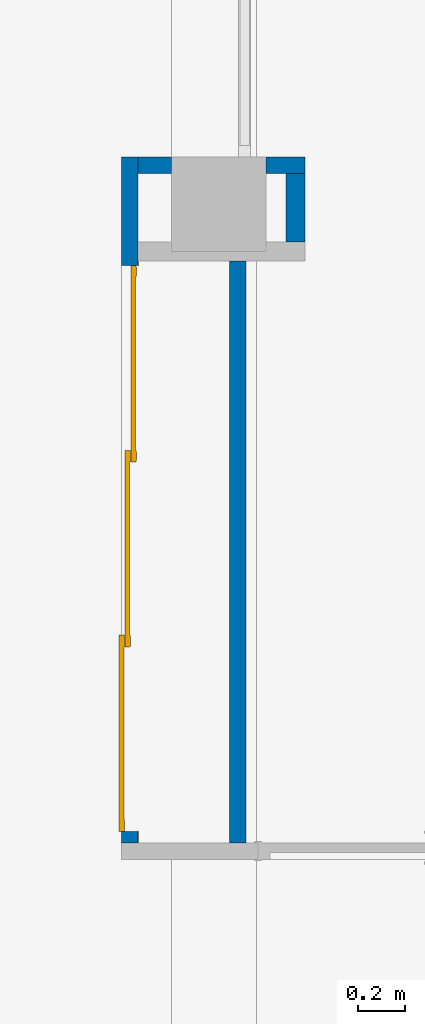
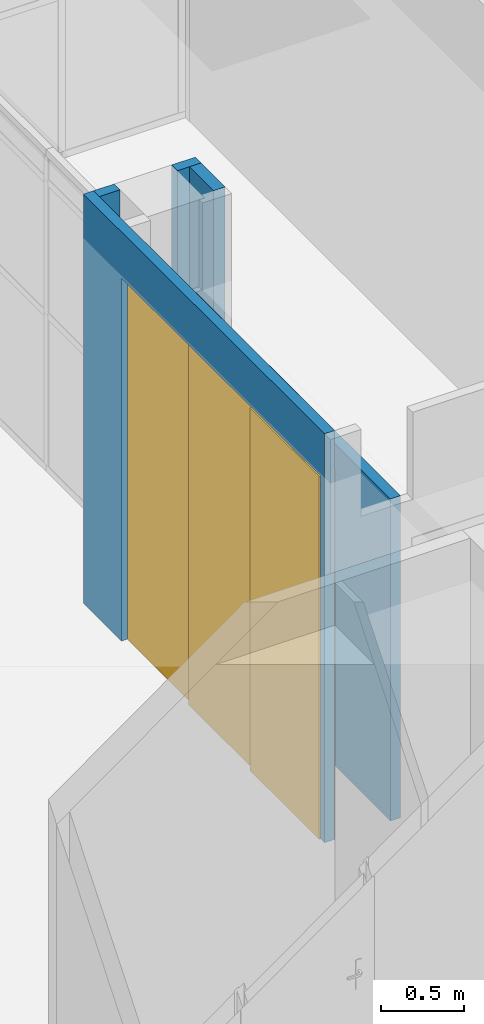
# One storey, part 41 of 97: 4 walls, 1 door, 1 opening.
"""IFC4 building model written with IfcOpenShell, lengths in metres."""

import ifcopenshell
import ifcopenshell.guid

model = None  # the IFC model being written
_history = None  # IfcOwnerHistory: only IFC2X3 demands one
_inside = {}  # id of a spatial element -> (the spatial element, [elements in it])
_under = {}  # id of a project, library or spatial element -> (it, [spatial elements below it])
_declared = {}  # id of a project -> (the project, [libraries it declares])
_typed = {}  # id of a type object -> (the type object, [elements of that type])
_made_of = {}  # id of a material, layer set ... -> (it, [elements and type objects made of it])


def new_model(schema):
    """Start an empty IFC model of exactly this schema.

    Asked for "IFC4X3", IfcOpenShell would pick the latest addendum, in which some entities
    have other attributes; the version numbers below select the first issue.
    IFC2X3 requires an IfcOwnerHistory on every rooted entity: one is made here for all.
    """
    global model, _history
    if schema == "IFC4X3":
        model = ifcopenshell.file(schema_version=(4, 3, 0, 0))
    else:
        model = ifcopenshell.file(schema=schema)
    _inside.clear()
    _under.clear()
    _declared.clear()
    _typed.clear()
    _made_of.clear()
    _history = None
    if model.schema == "IFC2X3":
        org = make("IfcOrganization", Name="unknown")
        user = make(
            "IfcPersonAndOrganization",
            ThePerson=make("IfcPerson", FamilyName="unknown"),
            TheOrganization=org,
        )
        app = make(
            "IfcApplication",
            ApplicationDeveloper=org,
            Version="unknown",
            ApplicationFullName="unknown",
            ApplicationIdentifier="unknown",
        )
        _history = make(
            "IfcOwnerHistory",
            OwningUser=user,
            OwningApplication=app,
            ChangeAction="ADDED",
            CreationDate=0,
        )
    return model


def make(cls, **values):
    """One entity of the class cls with the attributes given. An attribute that is None is left unset."""
    return model.create_entity(
        cls, **{name: value for name, value in values.items() if value is not None}
    )


def entity(cls, *values):
    """Any entity or typed value of the class cls, its attributes in the order of the schema. None: left unset."""
    e = model.create_entity(cls)
    for i, value in enumerate(values):
        if value is not None:
            e[i] = value
    return e


def rooted(cls, **values):
    """An entity with a GlobalId (a new one), such as an element, a storey or a relation."""
    return make(cls, GlobalId=ifcopenshell.guid.new(), OwnerHistory=_history, **values)


def si_unit(unit_type, name, prefix=None):
    """IfcSIUnit, for example si_unit("LENGTHUNIT", "METRE", prefix="MILLI")."""
    return make("IfcSIUnit", UnitType=unit_type, Prefix=prefix, Name=name)


def converted_unit(unit_type, name, factor, base, dimensions=None, offset=None):
    """IfcConversionBasedUnit, such as the inch: factor (a typed value) times the base unit."""
    return make(
        "IfcConversionBasedUnit"
        if offset is None
        else "IfcConversionBasedUnitWithOffset",
        ConversionOffset=offset,
        Dimensions=None
        if dimensions is None
        else entity("IfcDimensionalExponents", *dimensions),
        UnitType=unit_type,
        Name=name,
        ConversionFactor=make(
            "IfcMeasureWithUnit", ValueComponent=factor, UnitComponent=base
        ),
    )


def derived_unit(unit_type, elements):
    """IfcDerivedUnit: a product of units, each with its exponent."""
    return make(
        "IfcDerivedUnit",
        Elements=[
            make("IfcDerivedUnitElement", Unit=unit, Exponent=power)
            for unit, power in elements
        ],
        UnitType=unit_type,
    )


def assignment(units):
    """IfcUnitAssignment: the units of a project."""
    return None if units is None else make("IfcUnitAssignment", Units=units)


def point(xyz):
    """IfcCartesianPoint."""
    return None if xyz is None else make("IfcCartesianPoint", Coordinates=xyz)


def direction(xyz):
    """IfcDirection."""
    return None if xyz is None else make("IfcDirection", DirectionRatios=xyz)


def frame(location, z_axis=None, x_axis=None):
    """IfcAxis2Placement3D, a coordinate frame: its origin and axes. An axis left out is left unset."""
    return make(
        "IfcAxis2Placement3D",
        Location=point(location),
        Axis=direction(z_axis),
        RefDirection=direction(x_axis),
    )


def origin():
    """The frame at (0, 0, 0) with its axes left unset."""
    return frame((0.0, 0.0, 0.0))


def place(relative_to, where):
    """IfcLocalPlacement: puts the frame where relative to a parent placement (None: the world)."""
    return make(
        "IfcLocalPlacement", PlacementRelTo=relative_to, RelativePlacement=where
    )


def context(
    kind, dimensions, precision=None, world=None, true_north=None, identifier=None
):
    """IfcGeometricRepresentationContext, for example the 3D "Model" context."""
    return make(
        "IfcGeometricRepresentationContext",
        ContextIdentifier=identifier,
        ContextType=kind,
        CoordinateSpaceDimension=dimensions,
        Precision=precision,
        WorldCoordinateSystem=world,
        TrueNorth=true_north,
    )


def subcontext(parent, identifier, kind, view, scale=None):
    """IfcGeometricRepresentationSubContext, for example "Body" below "Model"."""
    return make(
        "IfcGeometricRepresentationSubContext",
        ContextIdentifier=identifier,
        ContextType=kind,
        ParentContext=parent,
        TargetScale=scale,
        TargetView=view,
    )


def project(units=None, contexts=None):
    """IfcProject with its units and contexts."""
    return rooted(
        "IfcProject",
        Name="project",
        RepresentationContexts=contexts,
        UnitsInContext=assignment(units),
    )


def spatial(cls, under=None, at=None, **own):
    """A site, building, storey or space (cls), placed at a placement, below another one or the project."""
    s = rooted(cls, ObjectPlacement=at, **own)
    if under is not None:
        _under.setdefault(under.id(), (under, []))[1].append(s)
    return s


def point_list(points):
    """IfcCartesianPointList2D or 3D."""
    cls = (
        "IfcCartesianPointList2D" if len(points[0]) == 2 else "IfcCartesianPointList3D"
    )
    return make(cls, CoordList=points)


def indexed_curve(points, segments=None, self_intersect=None):
    """IfcIndexedPolyCurve: lines and arcs through numbered points (the first is 1)."""
    return make(
        "IfcIndexedPolyCurve",
        Points=point_list(points),
        Segments=segments,
        SelfIntersect=self_intersect,
    )


def outline(outer, holes=None, kind="AREA"):
    """IfcArbitraryClosedProfileDef: a profile drawn as a closed curve; with holes, ...WithVoids."""
    if holes is None:
        return make("IfcArbitraryClosedProfileDef", ProfileType=kind, OuterCurve=outer)
    return make(
        "IfcArbitraryProfileDefWithVoids",
        ProfileType=kind,
        OuterCurve=outer,
        InnerCurves=holes,
    )


def extrude(swept, where, along, depth):
    """IfcExtrudedAreaSolid: the profile swept, set in the frame where, extruded along a direction by depth."""
    return make(
        "IfcExtrudedAreaSolid",
        SweptArea=swept,
        Position=where,
        ExtrudedDirection=direction(along),
        Depth=depth,
    )


def polygons(points, faces, closed=None, point_numbers=None):
    """IfcPolygonalFaceSet: a face is its outer loop, then its inner loops; points numbered from 1."""
    made = []
    for loops in faces:
        if len(loops) == 1:
            made.append(make("IfcIndexedPolygonalFace", CoordIndex=loops[0]))
        else:
            made.append(
                make(
                    "IfcIndexedPolygonalFaceWithVoids",
                    CoordIndex=loops[0],
                    InnerCoordIndices=loops[1:],
                )
            )
    return make(
        "IfcPolygonalFaceSet",
        Coordinates=point_list(points),
        Closed=closed,
        Faces=made,
        PnIndex=point_numbers,
    )


def shape(context_of_items, identifier, shape_type, items):
    """IfcShapeRepresentation: the items that make up one representation, for example the "Body"."""
    return make(
        "IfcShapeRepresentation",
        ContextOfItems=context_of_items,
        RepresentationIdentifier=identifier,
        RepresentationType=shape_type,
        Items=items,
    )


def source(mapping_origin, context_of_items, identifier, shape_type, items):
    """IfcRepresentationMap: a shape defined once, which mapped items show again and again."""
    return make(
        "IfcRepresentationMap",
        MappingOrigin=mapping_origin,
        MappedRepresentation=shape(context_of_items, identifier, shape_type, items),
    )


def transform(
    local_origin,
    x_axis=None,
    y_axis=None,
    z_axis=None,
    scale=None,
    scale2=None,
    scale3=None,
    uniform=True,
):
    """IfcCartesianTransformationOperator3D, or its non-uniform kind. x_axis, y_axis, z_axis: its Axis1, 2, 3."""
    if uniform:
        return make(
            "IfcCartesianTransformationOperator3D",
            Axis1=direction(x_axis),
            Axis2=direction(y_axis),
            LocalOrigin=point(local_origin),
            Scale=scale,
            Axis3=direction(z_axis),
        )
    return make(
        "IfcCartesianTransformationOperator3DnonUniform",
        Axis1=direction(x_axis),
        Axis2=direction(y_axis),
        LocalOrigin=point(local_origin),
        Scale=scale,
        Axis3=direction(z_axis),
        Scale2=scale2,
        Scale3=scale3,
    )


def mapped(mapping_source, mapping_target):
    """IfcMappedItem: shows the shape of a source again, moved by a transform."""
    return make(
        "IfcMappedItem", MappingSource=mapping_source, MappingTarget=mapping_target
    )


def material(Name=None, Category=None):
    """IfcMaterial."""
    return make("IfcMaterial", Name=Name, Category=Category)


def material_list(materials):
    """IfcMaterialList."""
    return make("IfcMaterialList", Materials=materials)


def layer(
    of_material, thickness, ventilated=None, Name=None, Category=None, Priority=None
):
    """IfcMaterialLayer: one layer of a wall or slab, of a material (None: an air gap)."""
    return make(
        "IfcMaterialLayer",
        Material=of_material,
        LayerThickness=thickness,
        IsVentilated=ventilated,
        Name=Name,
        Category=Category,
        Priority=Priority,
    )


def layer_set(layers, Name=None):
    """IfcMaterialLayerSet."""
    return make("IfcMaterialLayerSet", MaterialLayers=layers, LayerSetName=Name)


def constituent(of_material, Name=None, Category=None, fraction=None):
    """IfcMaterialConstituent: one of the materials an element consists of."""
    return make(
        "IfcMaterialConstituent",
        Name=Name,
        Material=of_material,
        Fraction=fraction,
        Category=Category,
    )


def constituent_set(constituents=None, Name=None):
    """IfcMaterialConstituentSet."""
    return make(
        "IfcMaterialConstituentSet", Name=Name, MaterialConstituents=constituents
    )


def made_of(thing, what):
    """Note that an element or type object is made of a material, layer set ...; save() writes the relation."""
    if what is not None:
        _made_of.setdefault(what.id(), (what, []))[1].append(thing)
    return thing


def type_object(cls, material=None, **own):
    """A type object (cls), such as IfcWallType, which elements share."""
    return made_of(rooted(cls, **own), material)


def type_shapes(of_type, sources):
    """Give a type object the sources (RepresentationMaps) that its elements show as mapped items."""
    of_type.RepresentationMaps = sources


def element(
    cls,
    number,
    at=None,
    inside=None,
    cuts=None,
    type_object=None,
    material=None,
    context=None,
    identifier="Body",
    shape_type=None,
    held_by="IfcProductDefinitionShape",
    body=None,
    shapes=None,
    **own,
):
    """One element of the class cls, such as IfcWall. Its Tag is "e" and its number.

    at: its placement. inside: the storey or other place that contains it. cuts: it is an
    opening in that element (IfcRelVoidsElement). A single representation is given by context,
    identifier, shape_type and body (its items); several are given by shapes. held_by: the class
    of the entity that holds the representations. save() writes the other relations.
    """
    e = rooted(cls, Tag="e%d" % number, ObjectPlacement=at, **own)
    if body is not None:
        shapes = [shape(context, identifier, shape_type, body)]
    if shapes is not None:
        e.Representation = make(held_by, Representations=shapes)
    if inside is not None:
        _inside.setdefault(inside.id(), (inside, []))[1].append(e)
    if cuts is not None:
        rooted(
            "IfcRelVoidsElement", RelatingBuildingElement=cuts, RelatedOpeningElement=e
        )
    if type_object is not None:
        _typed.setdefault(type_object.id(), (type_object, []))[1].append(e)
    return made_of(e, material)


def fill(opening, filler):
    """IfcRelFillsElement: the door or window that sits in an opening."""
    return rooted(
        "IfcRelFillsElement",
        RelatingOpeningElement=opening,
        RelatedBuildingElement=filler,
    )


def aggregate(whole, parts):
    """IfcRelAggregates: a whole, such as a stair, and the parts it consists of."""
    return rooted("IfcRelAggregates", RelatingObject=whole, RelatedObjects=parts)


def save(model, path):
    """Write the relations noted so far, then the file.

    IfcRelAggregates (storeys below a building ...), IfcRelContainedInSpatialStructure (elements
    in a storey), IfcRelDefinesByType, IfcRelAssociatesMaterial and IfcRelDeclares: one each for
    every whole, place, type object, material and project.
    """
    for whole, parts in _under.values():
        aggregate(whole, parts)
    for where, things in _inside.values():
        rooted(
            "IfcRelContainedInSpatialStructure",
            RelatedElements=things,
            RelatingStructure=where,
        )
    for kind, things in _typed.values():
        rooted("IfcRelDefinesByType", RelatedObjects=things, RelatingType=kind)
    for what, things in _made_of.values():
        rooted("IfcRelAssociatesMaterial", RelatedObjects=things, RelatingMaterial=what)
    for by, libraries in _declared.values():
        rooted("IfcRelDeclares", RelatingContext=by, RelatedDefinitions=libraries)
    model.write(path)


model = new_model("IFC4")

# Units and contexts
model_context = context("Model", 3, precision=1e-05, world=origin(), true_north=direction((6.12303176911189e-17, 1.0)))
body_context = subcontext(model_context, "Body", "Model", "MODEL_VIEW")
ifc_project = project(units=[si_unit("LENGTHUNIT", "METRE"), si_unit("AREAUNIT", "SQUARE_METRE"), si_unit("VOLUMEUNIT", "CUBIC_METRE"), converted_unit("PLANEANGLEUNIT", "DEGREE", entity("IfcRatioMeasure", 0.0174532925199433), si_unit("PLANEANGLEUNIT", "RADIAN"), dimensions=[0, 0, 0, 0, 0, 0, 0]), si_unit("MASSUNIT", "GRAM", prefix="KILO"), derived_unit("MASSDENSITYUNIT", [(si_unit("MASSUNIT", "GRAM", prefix="KILO"), 1), (si_unit("LENGTHUNIT", "METRE"), -3)]), derived_unit("MOMENTOFINERTIAUNIT", [(si_unit("LENGTHUNIT", "METRE"), 4)]), si_unit("TIMEUNIT", "SECOND"), si_unit("FREQUENCYUNIT", "HERTZ"), si_unit("THERMODYNAMICTEMPERATUREUNIT", "DEGREE_CELSIUS"), derived_unit("THERMALTRANSMITTANCEUNIT", [(si_unit("MASSUNIT", "GRAM", prefix="KILO"), 1), (si_unit("THERMODYNAMICTEMPERATUREUNIT", "KELVIN"), -1), (si_unit("TIMEUNIT", "SECOND"), -3)]), derived_unit("VOLUMETRICFLOWRATEUNIT", [(si_unit("LENGTHUNIT", "METRE"), 3), (si_unit("TIMEUNIT", "SECOND"), -1)]), si_unit("ELECTRICCURRENTUNIT", "AMPERE"), si_unit("ELECTRICVOLTAGEUNIT", "VOLT"), si_unit("POWERUNIT", "WATT"), si_unit("FORCEUNIT", "NEWTON", prefix="KILO"), si_unit("ILLUMINANCEUNIT", "LUX"), si_unit("LUMINOUSFLUXUNIT", "LUMEN"), si_unit("LUMINOUSINTENSITYUNIT", "CANDELA"), derived_unit("USERDEFINED", [(si_unit("MASSUNIT", "GRAM", prefix="KILO"), -1), (si_unit("LENGTHUNIT", "METRE"), -2), (si_unit("TIMEUNIT", "SECOND"), 3), (si_unit("LUMINOUSFLUXUNIT", "LUMEN"), 1)]), derived_unit("LINEARVELOCITYUNIT", [(si_unit("LENGTHUNIT", "METRE"), 1), (si_unit("TIMEUNIT", "SECOND"), -1)]), si_unit("PRESSUREUNIT", "PASCAL"), derived_unit("USERDEFINED", [(si_unit("LENGTHUNIT", "METRE"), -2), (si_unit("MASSUNIT", "GRAM", prefix="KILO"), 1), (si_unit("TIMEUNIT", "SECOND"), -2)]), derived_unit("LINEARFORCEUNIT", [(si_unit("MASSUNIT", "GRAM", prefix="KILO"), 1), (si_unit("LENGTHUNIT", "METRE"), 1), (si_unit("TIMEUNIT", "SECOND"), -2), (si_unit("LENGTHUNIT", "METRE"), -1)]), derived_unit("PLANARFORCEUNIT", [(si_unit("MASSUNIT", "GRAM", prefix="KILO"), 1), (si_unit("LENGTHUNIT", "METRE"), 1), (si_unit("TIMEUNIT", "SECOND"), -2), (si_unit("LENGTHUNIT", "METRE"), -2)])], contexts=[model_context])

# Site, building, storey
site_placement = place(None, origin())
site = spatial("IfcSite", under=ifc_project, at=site_placement, Name="Default", CompositionType="ELEMENT")
building_placement = place(site_placement, origin())
building = spatial("IfcBuilding", under=site, at=building_placement, Name="HOTEL CONSULAIRE BOULOGNE SUR MER", CompositionType="ELEMENT")
storey_placement = place(building_placement, frame((0.0, 0.0, 3.62152697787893)))
storey = spatial("IfcBuildingStorey", under=building, at=storey_placement, Name="Niveau 1", CompositionType="ELEMENT", Elevation=3.62152697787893)

# Wall, opening, door
ifc_material_1 = material(Name="Mur par défaut", Category="Divers")
ifc_layer_1 = layer(ifc_material_1, 0.07, Name="Mur par défaut", Category="Divers")
ifc_layer_set_1 = layer_set([ifc_layer_1], Name="Mur de base:Générique - Int. 70 mm")
wall_type_1 = type_object("IfcWallType", Name="Mur de base:Générique - Int. 70 mm", PredefinedType="NOTDEFINED", material=ifc_layer_set_1)
wall_1_placement = place(storey_placement, frame((-5.71052868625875, -22.5250276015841, 0.0), z_axis=(0.0, 0.0, 1.0), x_axis=(0.0, 1.0, 0.0)))
wall_1 = element("IfcWall", 1, at=wall_1_placement, inside=storey, type_object=wall_type_1, material=ifc_layer_set_1, Name="Mur de base:Générique - Int. 70 mm", ObjectType="Mur de base:Générique - Int. 70 mm", PredefinedType="NOTDEFINED", context=body_context, shape_type="Tessellation", body=[
    polygons([(2.908, -0.035, 5.41433564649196e-16), (2.838, -0.0350000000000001, 5.41433564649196e-16), (2.448, -0.0350000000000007, 5.41433564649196e-16), (2.448, 0.0350000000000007, 5.41433564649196e-16), (2.908, 0.0349999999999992, 5.41433564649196e-16), (2.908, -0.0350000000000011, 3.0102145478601), (2.838, -0.0350000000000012, 3.0102145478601), (2.547268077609, -0.0350000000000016, 3.0102145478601), (2.467268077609, -0.0350000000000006, 3.01021454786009), (0.0, -0.035000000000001, 3.0102145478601), (0.0, -0.035000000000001, 5.41433564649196e-16), (0.0479999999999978, -0.0350000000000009, 5.41433564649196e-16), (0.0479999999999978, -0.0350000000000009, 2.66999999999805), (2.448, -0.0350000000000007, 2.66999999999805), (0.0, 0.0349999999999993, 3.0102145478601), (2.908, 0.0349999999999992, 3.0102145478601), (2.448, 0.0349999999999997, 2.66999999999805), (0.0479999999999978, 0.0349999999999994, 2.66999999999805), (0.0479999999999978, 0.0349999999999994, 5.41433564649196e-16), (0.0, 0.0349999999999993, 5.41433564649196e-16)], [[[2, 3, 4, 5, 1]], [[18, 17, 14, 13]], [[19, 12, 11, 20]], [[11, 12, 13, 14, 3, 2, 1, 6, 7, 8, 9, 10]], [[5, 4, 17, 18, 19, 20, 15, 16]], [[7, 6, 16, 15, 10, 9, 8]], [[6, 1, 5, 16]], [[19, 18, 13, 12]], [[15, 20, 11, 10]], [[17, 4, 3, 14]]], closed=True),
])
opening_placement = place(wall_1_placement, frame((2.448, 0.0349999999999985, 0.0)))
opening = element("IfcOpeningElement", 2, at=opening_placement, cuts=wall_1, Name="Placard coulissante - 3 panneaux:2.45X2.5:1", ObjectType="Opening", PredefinedType="OPENING", context=body_context, shape_type="SweptSolid", body=[
    extrude(outline(indexed_curve([(0.0, -1.22450018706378e-30), (2.66999999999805, -1.22450018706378e-30), (2.66999999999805, 2.4), (0.0, 2.4), (0.0, -1.22450018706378e-30)], self_intersect=False)), frame((0.0, 0.0, 0.0), z_axis=(0.0, -1.0, 0.0), x_axis=(0.0, 0.0, 1.0)), (0.0, 0.0, 1.0), 0.07),
])
ifc_material_2 = material(Name="Placard - Profil", Category="Divers")
ifc_constituent_1 = constituent(ifc_material_2, Name="Placard - Profil", Category="Matériaux")
ifc_material_3 = material(Name="Placard - Encadrement", Category="Divers")
ifc_constituent_2 = constituent(ifc_material_3, Name="Placard - Encadrement", Category="Matériaux")
ifc_material_4 = material(Name="Placard - Porte", Category="Divers")
ifc_constituent_3 = constituent(ifc_material_4, Name="Placard - Porte", Category="Matériaux")
ifc_constituent_set = constituent_set(constituents=[ifc_constituent_1, ifc_constituent_2, ifc_constituent_3], Name="MaterialConstituentSet")
ifc_material_list = material_list([ifc_material_2, ifc_material_4, ifc_material_3])
door_type = type_object("IfcDoorType", Name="Placard coulissante - 3 panneaux:2.45X2.5", OperationType="SLIDING_TO_RIGHT", PredefinedType="DOOR", material=ifc_material_list)
shared_shape = source(origin(), body_context, "Body", "SweptSolid", [
    extrude(outline(indexed_curve([(-0.0250000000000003, -0.00100000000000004), (0.0249999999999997, -0.00100000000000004), (0.0249999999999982, 0.00100000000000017), (0.0200162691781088, 0.00152388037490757), (0.0150216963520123, 0.0019316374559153), (0.0100189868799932, 0.00222305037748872), (0.0050108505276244, 0.00239796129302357), (9.47508738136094e-16, 0.00245627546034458), (-0.00501085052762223, 0.00239796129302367), (-0.0100189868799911, 0.00222305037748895), (-0.0150216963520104, 0.00193163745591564), (-0.0200162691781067, 0.00152388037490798), (-0.0249999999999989, 0.00100000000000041), (-0.0250000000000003, -0.00100000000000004)], self_intersect=False)), frame((2.375, 0.00899999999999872, 0.0), z_axis=(0.0, 0.0, 1.0), x_axis=(-1.0, 0.0, 0.0)), (0.0, 0.0, 1.0), 2.1),
    extrude(outline(indexed_curve([(-0.0250000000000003, -0.00100000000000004), (0.0249999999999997, -0.00100000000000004), (0.0249999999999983, 0.00100000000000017), (0.0200162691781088, 0.00152388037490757), (0.0150216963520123, 0.0019316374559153), (0.0100189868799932, 0.00222305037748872), (0.00501085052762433, 0.00239796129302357), (9.47508738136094e-16, 0.00245627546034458), (-0.00501085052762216, 0.00239796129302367), (-0.0100189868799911, 0.00222305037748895), (-0.0150216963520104, 0.00193163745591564), (-0.0200162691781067, 0.00152388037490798), (-0.0249999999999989, 0.00100000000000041), (-0.0250000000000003, -0.00100000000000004)], self_intersect=False)), frame((1.59166666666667, 0.00900000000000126, 0.0), z_axis=(0.0, 0.0, 1.0), x_axis=(-1.0, 0.0, 0.0)), (0.0, 0.0, 1.0), 2.1),
    extrude(outline(indexed_curve([(-0.0250000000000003, -0.00100000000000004), (0.0249999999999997, -0.00100000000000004), (0.0249999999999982, 0.00100000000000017), (0.0200162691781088, 0.00152388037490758), (0.0150216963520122, 0.00193163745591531), (0.0100189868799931, 0.00222305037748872), (0.00501085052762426, 0.00239796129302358), (8.79829542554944e-16, 0.00245627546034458), (-0.00501085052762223, 0.00239796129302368), (-0.0100189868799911, 0.00222305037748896), (-0.0150216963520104, 0.00193163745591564), (-0.0200162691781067, 0.00152388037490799), (-0.024999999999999, 0.00100000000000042), (-0.0250000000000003, -0.00100000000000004)], self_intersect=False)), frame((1.59166666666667, 0.0340000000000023, 0.0), z_axis=(0.0, 0.0, 1.0), x_axis=(-1.0, 0.0, 0.0)), (0.0, 0.0, 1.0), 2.1),
    extrude(outline(indexed_curve([(-0.0250000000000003, -0.00100000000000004), (0.0249999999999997, -0.00100000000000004), (0.0249999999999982, 0.00100000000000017), (0.0200162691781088, 0.00152388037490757), (0.0150216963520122, 0.0019316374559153), (0.0100189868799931, 0.00222305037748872), (0.00501085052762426, 0.00239796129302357), (8.79829542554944e-16, 0.00245627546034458), (-0.00501085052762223, 0.00239796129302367), (-0.0100189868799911, 0.00222305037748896), (-0.0150216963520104, 0.00193163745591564), (-0.0200162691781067, 0.00152388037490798), (-0.024999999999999, 0.00100000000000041), (-0.0250000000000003, -0.00100000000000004)], self_intersect=False)), frame((0.808333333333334, 0.0340000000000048, 0.0), z_axis=(0.0, 0.0, 1.0), x_axis=(-1.0, 0.0, 0.0)), (0.0, 0.0, 1.0), 2.1),
    extrude(outline(indexed_curve([(-0.0250000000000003, -0.00100000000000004), (0.0249999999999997, -0.00100000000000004), (0.0249999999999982, 0.00100000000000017), (0.0200162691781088, 0.00152388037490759), (0.0150216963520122, 0.00193163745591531), (0.0100189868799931, 0.00222305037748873), (0.00501085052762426, 0.00239796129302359), (8.79829542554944e-16, 0.00245627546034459), (-0.00501085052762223, 0.00239796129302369), (-0.0100189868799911, 0.00222305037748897), (-0.0150216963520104, 0.00193163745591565), (-0.0200162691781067, 0.001523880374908), (-0.024999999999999, 0.00100000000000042), (-0.0250000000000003, -0.00100000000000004)], self_intersect=False)), frame((0.808333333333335, 0.0590000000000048, 0.0), z_axis=(0.0, 0.0, 1.0), x_axis=(-1.0, 0.0, 0.0)), (0.0, 0.0, 1.0), 2.1),
    extrude(outline(indexed_curve([(-0.0250000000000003, -0.00100000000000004), (0.0249999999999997, -0.00100000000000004), (0.0249999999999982, 0.00100000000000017), (0.0200162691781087, 0.00152388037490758), (0.0150216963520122, 0.00193163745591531), (0.0100189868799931, 0.00222305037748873), (0.00501085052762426, 0.00239796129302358), (8.12150346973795e-16, 0.00245627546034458), (-0.00501085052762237, 0.00239796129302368), (-0.0100189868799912, 0.00222305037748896), (-0.0150216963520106, 0.00193163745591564), (-0.0200162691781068, 0.00152388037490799), (-0.0249999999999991, 0.00100000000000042), (-0.0250000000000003, -0.00100000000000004)], self_intersect=False)), frame((0.0249999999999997, 0.0590000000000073, 0.0), z_axis=(0.0, 0.0, 1.0), x_axis=(-1.0, 0.0, 0.0)), (0.0, 0.0, 1.0), 2.1),
    extrude(outline(indexed_curve([(-1.34649999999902, -1.248), (1.37149999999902, -1.248), (1.37149999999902, 1.248), (-1.34649999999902, 1.248), (-1.34649999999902, 1.198), (1.32149999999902, 1.198), (1.32149999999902, -1.198), (-1.34649999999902, -1.198), (-1.34649999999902, -1.248)], self_intersect=False)), frame((1.2, -0.00300000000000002, 1.34649999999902), z_axis=(0.0, 1.0, 0.0), x_axis=(0.0, 0.0, 1.0)), (0.0, 0.0, 1.0), 0.00300000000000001),
    extrude(outline(indexed_curve([(-0.0100000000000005, -0.416666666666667), (0.0100000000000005, -0.416666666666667), (0.0100000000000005, 0.416666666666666), (-0.0100000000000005, 0.416666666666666), (-0.0100000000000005, -0.416666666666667)], self_intersect=False)), frame((1.98333333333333, 0.0200000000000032, 0.0), z_axis=(0.0, 0.0, 1.0), x_axis=(0.0, 1.0, 0.0)), (0.0, 0.0, 1.0), 2.67),
    extrude(outline(indexed_curve([(-0.416666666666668, -0.01), (0.416666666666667, -0.01), (0.416666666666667, 0.01), (-0.416666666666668, 0.01), (-0.416666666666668, -0.01)], self_intersect=False)), frame((0.416666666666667, 0.0700000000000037, 0.0), z_axis=(0.0, 0.0, 1.0), x_axis=(-1.0, 0.0, 0.0)), (0.0, 0.0, 1.0), 2.67),
    extrude(outline(indexed_curve([(-0.00999999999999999, -0.416666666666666), (0.00999999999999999, -0.416666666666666), (0.00999999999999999, 0.416666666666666), (-0.00999999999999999, 0.416666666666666), (-0.00999999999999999, -0.416666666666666)], self_intersect=False)), frame((1.2, 0.0450000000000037, 0.0), z_axis=(0.0, 0.0, 1.0), x_axis=(0.0, 1.0, 0.0)), (0.0, 0.0, 1.0), 2.67),
])
type_shapes(door_type, [shared_shape])
door_placement = place(opening_placement, frame((-2.4, -0.0699999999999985, 0.0)))
door = element("IfcDoor", 3, at=door_placement, inside=storey, type_object=door_type, material=ifc_constituent_set, Name="Placard coulissante - 3 panneaux:2.45X2.5", ObjectType="Placard coulissante - 3 panneaux:2.45X2.5", OperationType="SLIDING_TO_RIGHT", OverallHeight=2.66999999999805, OverallWidth=2.4, PredefinedType="DOOR", context=body_context, shape_type="MappedRepresentation", body=[
    mapped(shared_shape, transform((0.0, 0.0, 0.0), scale=1.0)),
])
fill(opening, door)

# Walls
wall_2_placement = place(storey_placement, frame((-5.67552868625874, -19.6520276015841, 0.0)))
element("IfcWall", 4, at=wall_2_placement, inside=storey, type_object=wall_type_1, material=ifc_layer_set_1, Name="Mur de base:Générique - Int. 70 mm", ObjectType="Mur de base:Générique - Int. 70 mm", PredefinedType="NOTDEFINED", context=body_context, shape_type="SweptSolid", body=[
    extrude(outline(indexed_curve([(-0.0715000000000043, -0.0350000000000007), (0.0715000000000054, -0.0350000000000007), (0.0715000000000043, 0.0350000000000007), (-0.0715000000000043, 0.0350000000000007), (-0.0715000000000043, -0.0350000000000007)], self_intersect=False)), frame((0.0715000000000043, 0.0, 0.0)), (0.0, 0.0, 1.0), 3.01021454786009),
    extrude(outline(indexed_curve([(-0.0823357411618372, -0.0350000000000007), (0.0823357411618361, -0.0350000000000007), (0.0823357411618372, 0.0350000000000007), (-0.0823357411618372, 0.0350000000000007), (-0.0823357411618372, -0.0350000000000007)], self_intersect=False)), frame((0.625335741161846, 0.0, 0.0), z_axis=(0.0, 0.0, 1.0), x_axis=(-1.0, 0.0, 0.0)), (0.0, 0.0, 1.0), 3.01021454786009),
])
ifc_layer_2 = layer(ifc_material_1, 0.07, Name="Mur par défaut", Category="Divers")
ifc_layer_set_2 = layer_set([ifc_layer_2], Name="Mur de base:Int. Plâtre 70 mm")
wall_type_2 = type_object("IfcWallType", Name="Mur de base:Int. Plâtre 70 mm", PredefinedType="NOTDEFINED", material=ifc_layer_set_2)
wall_3_placement = place(storey_placement, frame((-5.25252868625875, -22.5250276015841, 0.0), z_axis=(0.0, 0.0, 1.0), x_axis=(0.0, 1.0, 0.0)))
element("IfcWall", 5, at=wall_3_placement, inside=storey, type_object=wall_type_2, material=ifc_layer_set_2, Name="Mur de base:Int. Plâtre 70 mm", ObjectType="Mur de base:Int. Plâtre 70 mm", PredefinedType="NOTDEFINED", context=body_context, shape_type="SweptSolid", body=[
    extrude(outline(indexed_curve([(-1.2336340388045, -0.0350000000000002), (1.2336340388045, -0.0350000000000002), (1.2336340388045, 0.0350000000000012), (-1.2336340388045, 0.0350000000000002), (-1.2336340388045, -0.0350000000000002)], self_intersect=False)), frame((1.2336340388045, 0.0, 0.0)), (0.0, 0.0, 1.0), 2.37021454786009),
    extrude(outline(indexed_curve([(-0.145365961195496, -0.0349999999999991), (0.145365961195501, -0.0349999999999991), (0.145365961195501, 0.0349999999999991), (-0.145365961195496, 0.0350000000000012), (-0.145365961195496, -0.0349999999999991)], self_intersect=False)), frame((2.6926340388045, 0.0, 0.0), z_axis=(0.0, 0.0, 1.0), x_axis=(-1.0, 0.0, 0.0)), (0.0, 0.0, 1.0), 2.37021454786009),
])
ifc_layer_3 = layer(ifc_material_1, 0.08, Name="Mur par défaut", Category="Divers")
ifc_layer_set_3 = layer_set([ifc_layer_3], Name="Mur de base:Générique - Int. 80")
wall_type_3 = type_object("IfcWallType", Name="Mur de base:Générique - Int. 80", PredefinedType="NOTDEFINED", material=ifc_layer_set_3)
wall_4_placement = place(storey_placement, frame((-5.00785720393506, -19.9777595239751, -0.0350000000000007), z_axis=(0.0, 0.0, 1.0), x_axis=(0.0, 1.0, 0.0)))
element("IfcWall", 6, at=wall_4_placement, inside=storey, type_object=wall_type_3, material=ifc_layer_set_3, Name="Mur de base:Générique - Int. 80", ObjectType="Mur de base:Générique - Int. 80", PredefinedType="NOTDEFINED", context=body_context, shape_type="SweptSolid", body=[
    extrude(outline(indexed_curve([(0.290731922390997, 0.0399999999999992), (-9.68167604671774e-17, 0.0399999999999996), (9.68167604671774e-17, -0.0399999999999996), (0.290731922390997, -0.04), (0.290731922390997, 0.0399999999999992)], self_intersect=False)), origin(), (0.0, 0.0, 1.0), 3.0452145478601),
])

save(model, "model.ifc")
